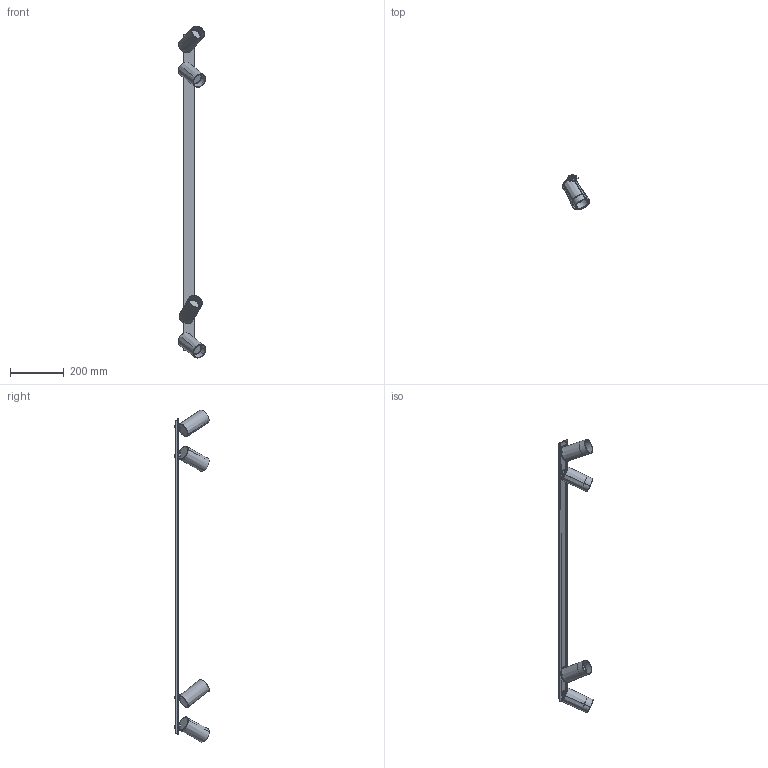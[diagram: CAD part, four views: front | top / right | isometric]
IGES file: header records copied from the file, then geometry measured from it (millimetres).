
Start section: SolidWorks IGES file using analytic representation for surfaces
Global section: file name: Z:\Modele 3D_WWW\_KOLEKCJE_WWW\MONO\MONO-SURFACE\MONO-SURFACE-IV-7831-7836\MONO-SURFACE-IV-7831-7836.IGS; native system: SolidWorks 2021; preprocessor: SolidWorks 2021; author: gabriela.tworek; date: 210818.084929; units: millimetre
Bounding box: 102.15 x 128.74 x 1238.38 mm (x, y, z)
Surface area: 418425.4 mm2 (no closed solid volume)
Topology: 0 solids, 0 shells, 1190 faces, 16336 edges, 16336 vertices
Faces by surface type: bspline 669, revolution 521
